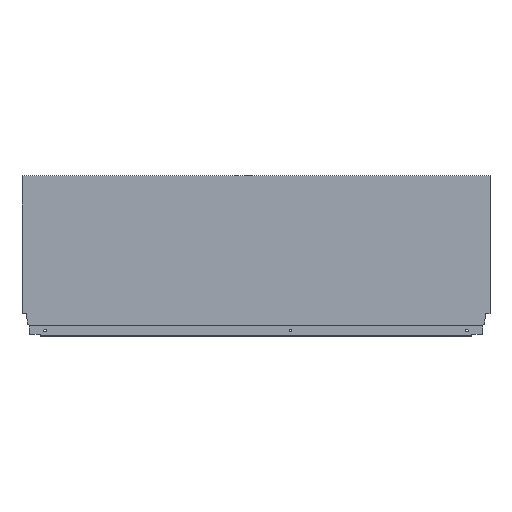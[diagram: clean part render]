
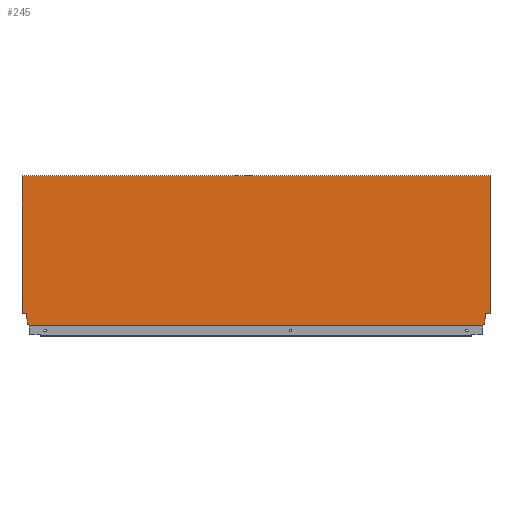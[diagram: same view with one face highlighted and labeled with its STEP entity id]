
A CAD part, top view. The second image highlights one B-rep face of the part: STEP entity #245.
In plain terms, the highlighted planar face has unit normal (0, 0, 1).
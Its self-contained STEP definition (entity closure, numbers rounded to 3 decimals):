
#34 = EDGE_CURVE ( 'NONE', #790, #827, #514, .T. ) ;
#35 = EDGE_CURVE ( 'NONE', #790, #858, #510, .T. ) ;
#36 = EDGE_CURVE ( 'NONE', #833, #809, #506, .T. ) ;
#38 = EDGE_CURVE ( 'NONE', #858, #839, #502, .T. ) ;
#39 = EDGE_CURVE ( 'NONE', #809, #823, #517, .T. ) ;
#40 = EDGE_CURVE ( 'NONE', #786, #823, #507, .T. ) ;
#41 = EDGE_CURVE ( 'NONE', #839, #833, #496, .T. ) ;
#42 = EDGE_CURVE ( 'NONE', #846, #804, #503, .T. ) ;
#43 = EDGE_CURVE ( 'NONE', #834, #827, #499, .T. ) ;
#44 = EDGE_CURVE ( 'NONE', #814, #846, #472, .T. ) ;
#45 = EDGE_CURVE ( 'NONE', #804, #834, #497, .T. ) ;
#46 = EDGE_CURVE ( 'NONE', #840, #814, #493, .T. ) ;
#47 = EDGE_CURVE ( 'NONE', #864, #840, #491, .T. ) ;
#48 = EDGE_CURVE ( 'NONE', #786, #864, #469, .T. ) ;
#190 = AXIS2_PLACEMENT_3D ( 'NONE', #1269, #1259, #1230 ) ;
#245 = ADVANCED_FACE ( 'NONE', ( #1523 ), #1274, .T. ) ;
#464 = VECTOR ( 'NONE', #695, 1000. ) ;
#466 = VECTOR ( 'NONE', #697, 1000. ) ;
#468 = VECTOR ( 'NONE', #699, 1000. ) ;
#469 = LINE ( 'NONE', #698, #464 ) ;
#470 = VECTOR ( 'NONE', #701, 1000. ) ;
#471 = VECTOR ( 'NONE', #703, 1000. ) ;
#472 = LINE ( 'NONE', #704, #471 ) ;
#491 = LINE ( 'NONE', #700, #466 ) ;
#492 = VECTOR ( 'NONE', #705, 1000. ) ;
#493 = LINE ( 'NONE', #702, #468 ) ;
#494 = VECTOR ( 'NONE', #707, 1000. ) ;
#495 = VECTOR ( 'NONE', #709, 1000. ) ;
#496 = LINE ( 'NONE', #710, #495 ) ;
#497 = LINE ( 'NONE', #706, #470 ) ;
#498 = VECTOR ( 'NONE', #711, 1000. ) ;
#499 = LINE ( 'NONE', #708, #492 ) ;
#500 = VECTOR ( 'NONE', #713, 1000. ) ;
#501 = VECTOR ( 'NONE', #715, 1000. ) ;
#502 = LINE ( 'NONE', #716, #501 ) ;
#503 = LINE ( 'NONE', #712, #494 ) ;
#505 = VECTOR ( 'NONE', #719, 1000. ) ;
#506 = LINE ( 'NONE', #720, #505 ) ;
#507 = LINE ( 'NONE', #714, #498 ) ;
#508 = VECTOR ( 'NONE', #721, 1000. ) ;
#510 = LINE ( 'NONE', #729, #508 ) ;
#512 = VECTOR ( 'NONE', #723, 1000. ) ;
#514 = LINE ( 'NONE', #724, #512 ) ;
#517 = LINE ( 'NONE', #718, #500 ) ;
#586 = ORIENTED_EDGE ( 'NONE', *, *, #48, .F. ) ;
#587 = ORIENTED_EDGE ( 'NONE', *, *, #47, .F. ) ;
#588 = ORIENTED_EDGE ( 'NONE', *, *, #46, .F. ) ;
#590 = ORIENTED_EDGE ( 'NONE', *, *, #40, .T. ) ;
#591 = ORIENTED_EDGE ( 'NONE', *, *, #39, .F. ) ;
#592 = ORIENTED_EDGE ( 'NONE', *, *, #36, .F. ) ;
#593 = ORIENTED_EDGE ( 'NONE', *, *, #41, .F. ) ;
#594 = ORIENTED_EDGE ( 'NONE', *, *, #38, .F. ) ;
#595 = ORIENTED_EDGE ( 'NONE', *, *, #35, .F. ) ;
#596 = ORIENTED_EDGE ( 'NONE', *, *, #34, .T. ) ;
#597 = ORIENTED_EDGE ( 'NONE', *, *, #43, .F. ) ;
#598 = ORIENTED_EDGE ( 'NONE', *, *, #45, .F. ) ;
#599 = ORIENTED_EDGE ( 'NONE', *, *, #44, .F. ) ;
#600 = ORIENTED_EDGE ( 'NONE', *, *, #42, .F. ) ;
#695 = DIRECTION ( 'NONE',  ( 1., 0., 0. ) ) ;
#697 = DIRECTION ( 'NONE',  ( 0., -1., 0. ) ) ;
#698 = CARTESIAN_POINT ( 'NONE',  ( -813., 260.7, 8. ) ) ;
#699 = DIRECTION ( 'NONE',  ( -1., 0., 0. ) ) ;
#700 = CARTESIAN_POINT ( 'NONE',  ( 0., 0., 8. ) ) ;
#701 = DIRECTION ( 'NONE',  ( -0.94, -0.342, 0. ) ) ;
#702 = CARTESIAN_POINT ( 'NONE',  ( 0., 21.2, 8. ) ) ;
#703 = DIRECTION ( 'NONE',  ( -0.174, -0.985, 0. ) ) ;
#704 = CARTESIAN_POINT ( 'NONE',  ( -7.06, 21.2, 8. ) ) ;
#705 = DIRECTION ( 'NONE',  ( 0., -1., 0. ) ) ;
#706 = CARTESIAN_POINT ( 'NONE',  ( -8.9, 2.64, 8. ) ) ;
#707 = DIRECTION ( 'NONE',  ( 0., -1., 0. ) ) ;
#708 = CARTESIAN_POINT ( 'NONE',  ( -13.004, 1.146, 8. ) ) ;
#709 = DIRECTION ( 'NONE',  ( 0., 1., 0. ) ) ;
#710 = CARTESIAN_POINT ( 'NONE',  ( -804.1, 10.765, 8. ) ) ;
#711 = DIRECTION ( 'NONE',  ( 0., -1., 0. ) ) ;
#712 = CARTESIAN_POINT ( 'NONE',  ( -8.9, 10.765, 8. ) ) ;
#713 = DIRECTION ( 'NONE',  ( -1., 0., 0. ) ) ;
#714 = CARTESIAN_POINT ( 'NONE',  ( -813., 0., 8. ) ) ;
#715 = DIRECTION ( 'NONE',  ( -0.94, 0.342, 0. ) ) ;
#716 = CARTESIAN_POINT ( 'NONE',  ( -804.1, 2.64, 8. ) ) ;
#718 = CARTESIAN_POINT ( 'NONE',  ( -818., 21.2, 8. ) ) ;
#719 = DIRECTION ( 'NONE',  ( -0.174, 0.985, 0. ) ) ;
#720 = CARTESIAN_POINT ( 'NONE',  ( -805.94, 21.2, 8. ) ) ;
#721 = DIRECTION ( 'NONE',  ( 0., 1., 0. ) ) ;
#723 = DIRECTION ( 'NONE',  ( 1., 0., 0. ) ) ;
#724 = CARTESIAN_POINT ( 'NONE',  ( -813., 0., 8. ) ) ;
#729 = CARTESIAN_POINT ( 'NONE',  ( -799.996, 1.146, 8. ) ) ;
#786 = VERTEX_POINT ( 'NONE', #1320 ) ;
#790 = VERTEX_POINT ( 'NONE', #1308 ) ;
#804 = VERTEX_POINT ( 'NONE', #1185 ) ;
#809 = VERTEX_POINT ( 'NONE', #1180 ) ;
#814 = VERTEX_POINT ( 'NONE', #1175 ) ;
#823 = VERTEX_POINT ( 'NONE', #1166 ) ;
#827 = VERTEX_POINT ( 'NONE', #1162 ) ;
#833 = VERTEX_POINT ( 'NONE', #1156 ) ;
#834 = VERTEX_POINT ( 'NONE', #1155 ) ;
#839 = VERTEX_POINT ( 'NONE', #1150 ) ;
#840 = VERTEX_POINT ( 'NONE', #1149 ) ;
#846 = VERTEX_POINT ( 'NONE', #1143 ) ;
#858 = VERTEX_POINT ( 'NONE', #1131 ) ;
#864 = VERTEX_POINT ( 'NONE', #1125 ) ;
#900 = EDGE_LOOP ( 'NONE', ( #590, #591, #592, #593, #594, #595, #596, #597, #598, #600, #599, #588, #587, #586 ) ) ;
#1125 = CARTESIAN_POINT ( 'NONE',  ( 0., 260.7, 8. ) ) ;
#1131 = CARTESIAN_POINT ( 'NONE',  ( -799.996, 1.146, 8. ) ) ;
#1143 = CARTESIAN_POINT ( 'NONE',  ( -8.9, 10.765, 8. ) ) ;
#1149 = CARTESIAN_POINT ( 'NONE',  ( 0., 21.2, 8. ) ) ;
#1150 = CARTESIAN_POINT ( 'NONE',  ( -804.1, 2.64, 8. ) ) ;
#1155 = CARTESIAN_POINT ( 'NONE',  ( -13.004, 1.146, 8. ) ) ;
#1156 = CARTESIAN_POINT ( 'NONE',  ( -804.1, 10.765, 8. ) ) ;
#1162 = CARTESIAN_POINT ( 'NONE',  ( -13.004, 0., 8. ) ) ;
#1166 = CARTESIAN_POINT ( 'NONE',  ( -813., 21.2, 8. ) ) ;
#1175 = CARTESIAN_POINT ( 'NONE',  ( -7.06, 21.2, 8. ) ) ;
#1180 = CARTESIAN_POINT ( 'NONE',  ( -805.94, 21.2, 8. ) ) ;
#1185 = CARTESIAN_POINT ( 'NONE',  ( -8.9, 2.64, 8. ) ) ;
#1230 = DIRECTION ( 'NONE',  ( 1., 0., 0. ) ) ;
#1259 = DIRECTION ( 'NONE',  ( 0., 0., 1. ) ) ;
#1269 = CARTESIAN_POINT ( 'NONE',  ( -813., 0., 8. ) ) ;
#1274 = PLANE ( 'NONE',  #190 ) ;
#1308 = CARTESIAN_POINT ( 'NONE',  ( -799.996, 0., 8. ) ) ;
#1320 = CARTESIAN_POINT ( 'NONE',  ( -813., 260.7, 8. ) ) ;
#1523 = FACE_OUTER_BOUND ( 'NONE', #900, .T. ) ;
